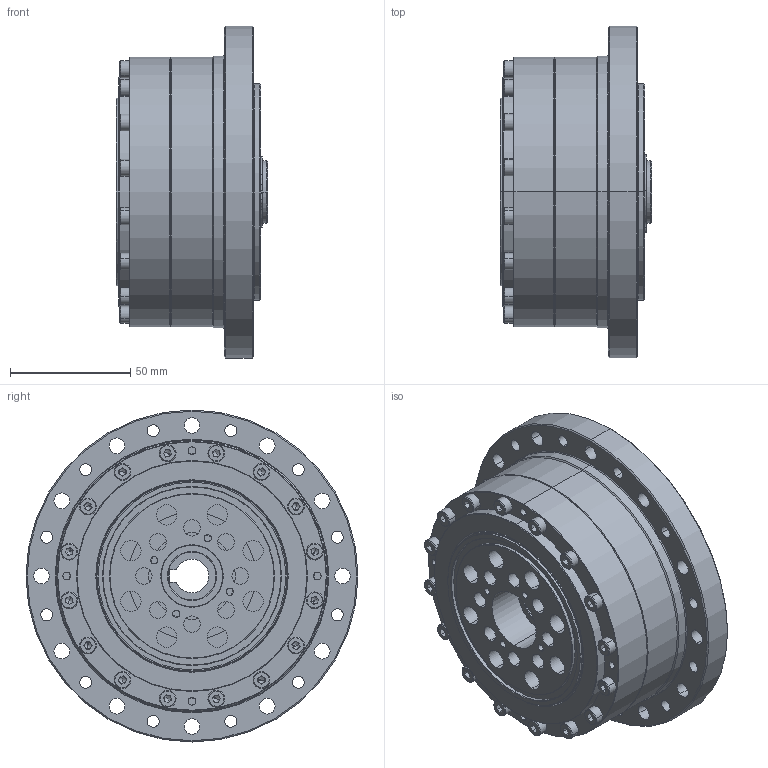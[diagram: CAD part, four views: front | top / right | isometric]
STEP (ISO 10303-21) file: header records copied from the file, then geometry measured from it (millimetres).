
FILE_DESCRIPTION (( 'STEP AP203' ), '1' );
FILE_NAME ('BCS-32-XXX-U-¢ò.STEP', '2019-01-15T03:22:48', ( 'User' ), ( 'China' ), 'SwSTEP 2.0', 'SolidWorks 2015', '' );
FILE_SCHEMA (( 'CONFIG_CONTROL_DESIGN' ));
Length unit declared in the file: millimetre
Products named in the file (1): BCS-32-XXX-U-ｊ
Bounding box: 62.99 x 138 x 138 mm (x, y, z)
Surface area: 98101 mm2 (no closed solid volume)
Topology: 0 solids, 34 shells, 522 faces, 1692 edges, 1085 vertices
Faces by surface type: cylinder 190, plane 160, cone 100, sphere 44, torus 26, bspline 2
Entity records: 18144 total; most frequent: CARTESIAN_POINT 3760, DIRECTION 3164, ORIENTED_EDGE 2696, EDGE_CURVE 1550, AXIS2_PLACEMENT_3D 1243, VERTEX_POINT 1019, CIRCLE 722, VECTOR 678
